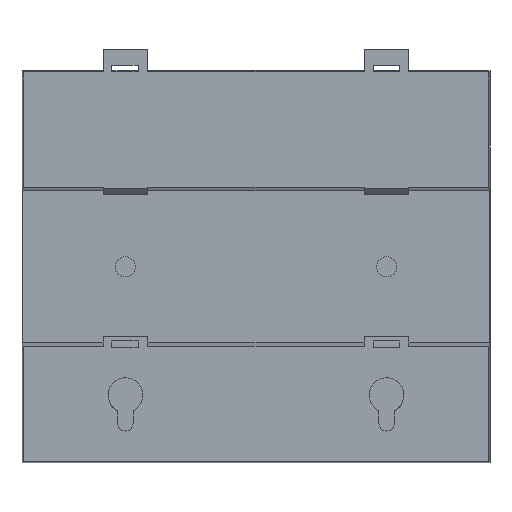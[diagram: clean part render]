
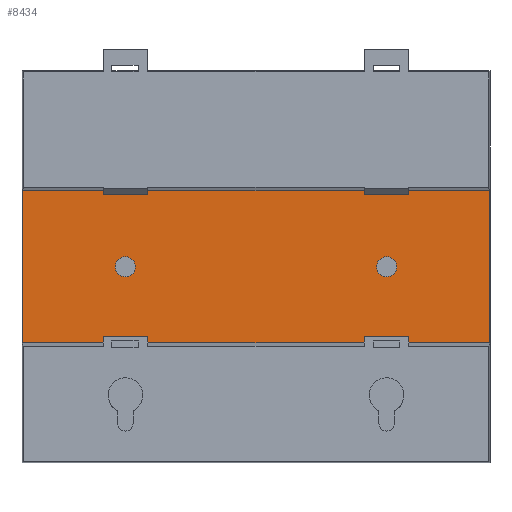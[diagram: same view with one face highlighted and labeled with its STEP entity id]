
A CAD part, front view. The second image highlights one B-rep face of the part: STEP entity #8434.
In plain terms, the highlighted planar face has unit normal (0, -1, 0).
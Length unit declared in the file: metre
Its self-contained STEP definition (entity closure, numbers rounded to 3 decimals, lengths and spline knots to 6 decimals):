
#669=CIRCLE('',#10283,0.0023);
#670=CIRCLE('',#10284,0.0023);
#837=ORIENTED_EDGE('',*,*,#3163,.T.);
#838=ORIENTED_EDGE('',*,*,#3180,.F.);
#839=ORIENTED_EDGE('',*,*,#3149,.F.);
#840=ORIENTED_EDGE('',*,*,#3167,.T.);
#841=ORIENTED_EDGE('',*,*,#3181,.F.);
#842=ORIENTED_EDGE('',*,*,#3182,.F.);
#3149=EDGE_CURVE('',#4329,#4330,#5143,.F.);
#3163=EDGE_CURVE('',#4335,#4336,#5157,.T.);
#3167=EDGE_CURVE('',#4329,#4335,#5161,.T.);
#3180=EDGE_CURVE('',#4330,#4336,#5174,.T.);
#3181=EDGE_CURVE('',#4347,#4347,#669,.F.);
#3182=EDGE_CURVE('',#4348,#4348,#670,.F.);
#4329=VERTEX_POINT('',#12706);
#4330=VERTEX_POINT('',#12708);
#4335=VERTEX_POINT('',#12726);
#4336=VERTEX_POINT('',#12729);
#4347=VERTEX_POINT('',#12763);
#4348=VERTEX_POINT('',#12765);
#5143=LINE('',#12707,#6027);
#5157=LINE('',#12730,#6041);
#5161=LINE('',#12738,#6045);
#5174=LINE('',#12760,#6058);
#6027=VECTOR('',#10836,1.);
#6041=VECTOR('',#10854,1.);
#6045=VECTOR('',#10862,1.);
#6058=VECTOR('',#10877,1.);
#6843=EDGE_LOOP('',(#837,#838,#839,#840));
#6844=EDGE_LOOP('',(#841));
#6845=EDGE_LOOP('',(#842));
#7467=FACE_BOUND('',#6843,.T.);
#7468=FACE_BOUND('',#6844,.T.);
#7469=FACE_BOUND('',#6845,.T.);
#8085=PLANE('',#10282);
#8434=ADVANCED_FACE('',(#7467,#7468,#7469),#8085,.F.);
#10282=AXIS2_PLACEMENT_3D('',#12761,#10878,#10879);
#10283=AXIS2_PLACEMENT_3D('',#12762,#10880,#10881);
#10284=AXIS2_PLACEMENT_3D('',#12764,#10882,#10883);
#10836=DIRECTION('',(0.,0.,1.));
#10854=DIRECTION('',(0.,0.,-1.));
#10862=DIRECTION('',(-1.,0.,0.));
#10877=DIRECTION('',(-1.,0.,0.));
#10878=DIRECTION('',(0.,1.,0.));
#10879=DIRECTION('',(0.,0.,1.));
#10880=DIRECTION('',(0.,1.,0.));
#10881=DIRECTION('',(0.,0.,1.));
#10882=DIRECTION('',(0.,1.,0.));
#10883=DIRECTION('',(0.,0.,1.));
#12706=CARTESIAN_POINT('',(0.053579,-0.0098,0.0175));
#12707=CARTESIAN_POINT('',(0.053579,-0.0098,-0.045));
#12708=CARTESIAN_POINT('',(0.053579,-0.0098,-0.0175));
#12726=CARTESIAN_POINT('',(-0.053579,-0.0098,0.0175));
#12729=CARTESIAN_POINT('',(-0.053579,-0.0098,-0.0175));
#12730=CARTESIAN_POINT('',(-0.053579,-0.0098,-0.045));
#12738=CARTESIAN_POINT('',(0.155342,-0.0098,0.0175));
#12760=CARTESIAN_POINT('',(0.155342,-0.0098,-0.0175));
#12761=CARTESIAN_POINT('',(0.155342,-0.0098,0.));
#12762=CARTESIAN_POINT('',(-0.03,-0.0098,0.));
#12763=CARTESIAN_POINT('',(-0.03,-0.0098,0.0023));
#12764=CARTESIAN_POINT('',(0.03,-0.0098,0.));
#12765=CARTESIAN_POINT('',(0.03,-0.0098,0.0023));
